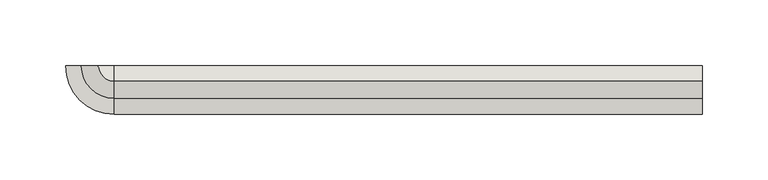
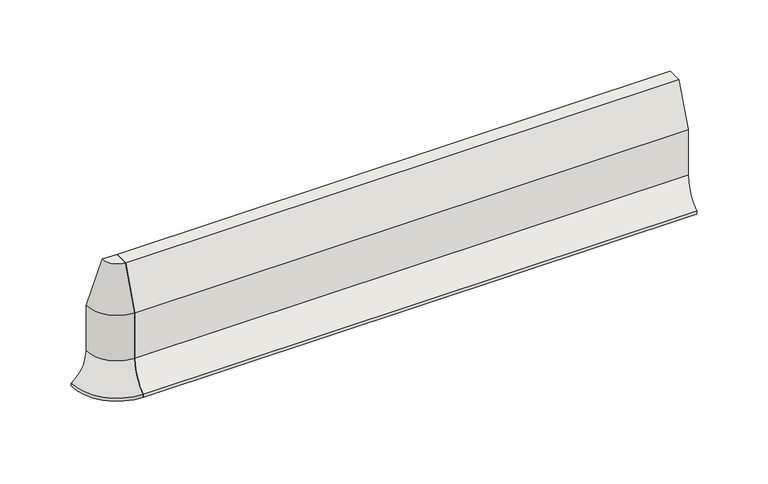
"""IFC4 building model written with IfcOpenShell, lengths in millimetres: wall geometry, GM_PC_UN_ACO kerb PB outside corner_ACO : PB H100 plain."""

import ifcopenshell
import ifcopenshell.guid

model = None  # the IFC model being written
_history = None  # IfcOwnerHistory: only IFC2X3 demands one
_inside = {}  # id of a spatial element -> (the spatial element, [elements in it])
_under = {}  # id of a project, library or spatial element -> (it, [spatial elements below it])
_declared = {}  # id of a project -> (the project, [libraries it declares])
_typed = {}  # id of a type object -> (the type object, [elements of that type])
_made_of = {}  # id of a material, layer set ... -> (it, [elements and type objects made of it])


def new_model(schema):
    """Start an empty IFC model of exactly this schema.

    Asked for "IFC4X3", IfcOpenShell would pick the latest addendum, in which some entities
    have other attributes; the version numbers below select the first issue.
    IFC2X3 requires an IfcOwnerHistory on every rooted entity: one is made here for all.
    """
    global model, _history
    if schema == "IFC4X3":
        model = ifcopenshell.file(schema_version=(4, 3, 0, 0))
    else:
        model = ifcopenshell.file(schema=schema)
    _inside.clear()
    _under.clear()
    _declared.clear()
    _typed.clear()
    _made_of.clear()
    _history = None
    if model.schema == "IFC2X3":
        org = make("IfcOrganization", Name="unknown")
        user = make(
            "IfcPersonAndOrganization",
            ThePerson=make("IfcPerson", FamilyName="unknown"),
            TheOrganization=org,
        )
        app = make(
            "IfcApplication",
            ApplicationDeveloper=org,
            Version="unknown",
            ApplicationFullName="unknown",
            ApplicationIdentifier="unknown",
        )
        _history = make(
            "IfcOwnerHistory",
            OwningUser=user,
            OwningApplication=app,
            ChangeAction="ADDED",
            CreationDate=0,
        )
    return model


def make(cls, **values):
    """One entity of the class cls with the attributes given. An attribute that is None is left unset."""
    return model.create_entity(
        cls, **{name: value for name, value in values.items() if value is not None}
    )


def rooted(cls, **values):
    """An entity with a GlobalId (a new one), such as an element, a storey or a relation."""
    return make(cls, GlobalId=ifcopenshell.guid.new(), OwnerHistory=_history, **values)


def si_unit(unit_type, name, prefix=None):
    """IfcSIUnit, for example si_unit("LENGTHUNIT", "METRE", prefix="MILLI")."""
    return make("IfcSIUnit", UnitType=unit_type, Prefix=prefix, Name=name)


def assignment(units):
    """IfcUnitAssignment: the units of a project."""
    return None if units is None else make("IfcUnitAssignment", Units=units)


def point(xyz):
    """IfcCartesianPoint."""
    return None if xyz is None else make("IfcCartesianPoint", Coordinates=xyz)


def direction(xyz):
    """IfcDirection."""
    return None if xyz is None else make("IfcDirection", DirectionRatios=xyz)


def frame(location, z_axis=None, x_axis=None):
    """IfcAxis2Placement3D, a coordinate frame: its origin and axes. An axis left out is left unset."""
    return make(
        "IfcAxis2Placement3D",
        Location=point(location),
        Axis=direction(z_axis),
        RefDirection=direction(x_axis),
    )


def frame_2d(location, x_axis=None):
    """IfcAxis2Placement2D, a coordinate frame in the plane: its origin and x axis."""
    return make(
        "IfcAxis2Placement2D", Location=point(location), RefDirection=direction(x_axis)
    )


def origin():
    """The frame at (0, 0, 0) with its axes left unset."""
    return frame((0.0, 0.0, 0.0))


def place(relative_to, where):
    """IfcLocalPlacement: puts the frame where relative to a parent placement (None: the world)."""
    return make(
        "IfcLocalPlacement", PlacementRelTo=relative_to, RelativePlacement=where
    )


def context(
    kind, dimensions, precision=None, world=None, true_north=None, identifier=None
):
    """IfcGeometricRepresentationContext, for example the 3D "Model" context."""
    return make(
        "IfcGeometricRepresentationContext",
        ContextIdentifier=identifier,
        ContextType=kind,
        CoordinateSpaceDimension=dimensions,
        Precision=precision,
        WorldCoordinateSystem=world,
        TrueNorth=true_north,
    )


def project(units=None, contexts=None):
    """IfcProject with its units and contexts."""
    return rooted(
        "IfcProject",
        Name="project",
        RepresentationContexts=contexts,
        UnitsInContext=assignment(units),
    )


def spatial(cls, under=None, at=None, **own):
    """A site, building, storey or space (cls), placed at a placement, below another one or the project."""
    s = rooted(cls, ObjectPlacement=at, **own)
    if under is not None:
        _under.setdefault(under.id(), (under, []))[1].append(s)
    return s


def polyline(points):
    """IfcPolyline through the points."""
    return make("IfcPolyline", Points=[point(p) for p in points])


def circle_curve(where, radius):
    """IfcCircle in the frame where."""
    return make("IfcCircle", Position=where, Radius=radius)


def ellipse_curve(where, semi_axis1, semi_axis2):
    """IfcEllipse in the frame where."""
    return make(
        "IfcEllipse", Position=where, SemiAxis1=semi_axis1, SemiAxis2=semi_axis2
    )


def trimmed(basis, trim1, trim2, sense, master):
    """IfcTrimmedCurve: the piece of a basis curve between two trims."""
    return make(
        "IfcTrimmedCurve",
        BasisCurve=basis,
        Trim1=trim1,
        Trim2=trim2,
        SenseAgreement=sense,
        MasterRepresentation=master,
    )


def segment(curve, same_sense, transition):
    """IfcCompositeCurveSegment."""
    return make(
        "IfcCompositeCurveSegment",
        Transition=transition,
        SameSense=same_sense,
        ParentCurve=curve,
    )


def composite_curve(segments, self_intersect=None):
    """IfcCompositeCurve: segments joined end to end."""
    return make("IfcCompositeCurve", Segments=segments, SelfIntersect=self_intersect)


def outline(outer, holes=None, kind="AREA"):
    """IfcArbitraryClosedProfileDef: a profile drawn as a closed curve; with holes, ...WithVoids."""
    if holes is None:
        return make("IfcArbitraryClosedProfileDef", ProfileType=kind, OuterCurve=outer)
    return make(
        "IfcArbitraryProfileDefWithVoids",
        ProfileType=kind,
        OuterCurve=outer,
        InnerCurves=holes,
    )


def extrude(swept, where, along, depth):
    """IfcExtrudedAreaSolid: the profile swept, set in the frame where, extruded along a direction by depth."""
    return make(
        "IfcExtrudedAreaSolid",
        SweptArea=swept,
        Position=where,
        ExtrudedDirection=direction(along),
        Depth=depth,
    )


def shape(context_of_items, identifier, shape_type, items):
    """IfcShapeRepresentation: the items that make up one representation, for example the "Body"."""
    return make(
        "IfcShapeRepresentation",
        ContextOfItems=context_of_items,
        RepresentationIdentifier=identifier,
        RepresentationType=shape_type,
        Items=items,
    )


def source(mapping_origin, context_of_items, identifier, shape_type, items):
    """IfcRepresentationMap: a shape defined once, which mapped items show again and again."""
    return make(
        "IfcRepresentationMap",
        MappingOrigin=mapping_origin,
        MappedRepresentation=shape(context_of_items, identifier, shape_type, items),
    )


def transform(
    local_origin,
    x_axis=None,
    y_axis=None,
    z_axis=None,
    scale=None,
    scale2=None,
    scale3=None,
    uniform=True,
):
    """IfcCartesianTransformationOperator3D, or its non-uniform kind. x_axis, y_axis, z_axis: its Axis1, 2, 3."""
    if uniform:
        return make(
            "IfcCartesianTransformationOperator3D",
            Axis1=direction(x_axis),
            Axis2=direction(y_axis),
            LocalOrigin=point(local_origin),
            Scale=scale,
            Axis3=direction(z_axis),
        )
    return make(
        "IfcCartesianTransformationOperator3DnonUniform",
        Axis1=direction(x_axis),
        Axis2=direction(y_axis),
        LocalOrigin=point(local_origin),
        Scale=scale,
        Axis3=direction(z_axis),
        Scale2=scale2,
        Scale3=scale3,
    )


def mapped(mapping_source, mapping_target):
    """IfcMappedItem: shows the shape of a source again, moved by a transform."""
    return make(
        "IfcMappedItem", MappingSource=mapping_source, MappingTarget=mapping_target
    )


def made_of(thing, what):
    """Note that an element or type object is made of a material, layer set ...; save() writes the relation."""
    if what is not None:
        _made_of.setdefault(what.id(), (what, []))[1].append(thing)
    return thing


def element(
    cls,
    number,
    at=None,
    inside=None,
    cuts=None,
    type_object=None,
    material=None,
    context=None,
    identifier="Body",
    shape_type=None,
    held_by="IfcProductDefinitionShape",
    body=None,
    shapes=None,
    **own,
):
    """One element of the class cls, such as IfcWall. Its Tag is "e" and its number.

    at: its placement. inside: the storey or other place that contains it. cuts: it is an
    opening in that element (IfcRelVoidsElement). A single representation is given by context,
    identifier, shape_type and body (its items); several are given by shapes. held_by: the class
    of the entity that holds the representations. save() writes the other relations.
    """
    e = rooted(cls, Tag="e%d" % number, ObjectPlacement=at, **own)
    if body is not None:
        shapes = [shape(context, identifier, shape_type, body)]
    if shapes is not None:
        e.Representation = make(held_by, Representations=shapes)
    if inside is not None:
        _inside.setdefault(inside.id(), (inside, []))[1].append(e)
    if cuts is not None:
        rooted(
            "IfcRelVoidsElement", RelatingBuildingElement=cuts, RelatedOpeningElement=e
        )
    if type_object is not None:
        _typed.setdefault(type_object.id(), (type_object, []))[1].append(e)
    return made_of(e, material)


def aggregate(whole, parts):
    """IfcRelAggregates: a whole, such as a stair, and the parts it consists of."""
    return rooted("IfcRelAggregates", RelatingObject=whole, RelatedObjects=parts)


def save(model, path):
    """Write the relations noted so far, then the file.

    IfcRelAggregates (storeys below a building ...), IfcRelContainedInSpatialStructure (elements
    in a storey), IfcRelDefinesByType, IfcRelAssociatesMaterial and IfcRelDeclares: one each for
    every whole, place, type object, material and project.
    """
    for whole, parts in _under.values():
        aggregate(whole, parts)
    for where, things in _inside.values():
        rooted(
            "IfcRelContainedInSpatialStructure",
            RelatedElements=things,
            RelatingStructure=where,
        )
    for kind, things in _typed.values():
        rooted("IfcRelDefinesByType", RelatedObjects=things, RelatingType=kind)
    for what, things in _made_of.values():
        rooted("IfcRelAssociatesMaterial", RelatedObjects=things, RelatingMaterial=what)
    for by, libraries in _declared.values():
        rooted("IfcRelDeclares", RelatingContext=by, RelatedDefinitions=libraries)
    model.write(path)


def plane_surface(at):
    """IfcPlane: the flat surface through the origin of the frame at, square to its z axis."""
    return make("IfcPlane", Position=at)


def cylinder_surface(at, radius):
    """IfcCylindricalSurface: all points at the distance radius from the z axis of the frame at."""
    return make("IfcCylindricalSurface", Position=at, Radius=radius)


def revolved_surface(curve, axis_point, axis_direction):
    """IfcSurfaceOfRevolution: the curve turned about the line through axis_point along axis_direction."""
    return make(
        "IfcSurfaceOfRevolution",
        SweptCurve=make("IfcArbitraryOpenProfileDef", ProfileType="CURVE", Curve=curve),
        AxisPosition=make("IfcAxis1Placement", Location=point(axis_point), Axis=direction(axis_direction)),
    )


def advanced_brep(points, edges, surfaces, faces):
    """IfcAdvancedBrep: a solid bounded by faces that lie on surfaces and meet in shared edges.

    An edge is (start, end): straight between two places in points (the first is 0);
    or (start, end, curve); or (start, end, curve, False) where it runs against its curve.
    A face is (place in surfaces, loops), or (place, loops, False) where it looks against
    its surface's normal. A loop lists edges by number (the first is 1), with a minus sign
    where the edge is run from its end to its start. The first loop is the outer one.
    """
    corners = [point(p) for p in points]
    vertices = [make("IfcVertexPoint", VertexGeometry=c) for c in corners]
    made = []
    for start, end, *more in edges:
        made.append(
            make(
                "IfcEdgeCurve",
                EdgeStart=vertices[start],
                EdgeEnd=vertices[end],
                EdgeGeometry=more[0] if more else make("IfcPolyline", Points=[corners[start], corners[end]]),
                SameSense=more[1] if len(more) > 1 else True,
            )
        )
    hull = []
    for where, loops, *sense in faces:
        bounds = []
        for j, loop in enumerate(loops):
            ring = [make("IfcOrientedEdge", EdgeElement=made[abs(k) - 1], Orientation=k > 0) for k in loop]
            bounds.append(
                make(
                    "IfcFaceOuterBound" if j == 0 else "IfcFaceBound",
                    Bound=make("IfcEdgeLoop", EdgeList=ring),
                    Orientation=True,
                )
            )
        hull.append(make("IfcAdvancedFace", Bounds=bounds, FaceSurface=surfaces[where], SameSense=sense[0] if sense else True))
    return make("IfcAdvancedBrep", Outer=make("IfcClosedShell", CfsFaces=hull))


def wall_ce8773a7(model_context):
    return source(origin(), model_context, "Body", "SolidModel", [
        extrude(outline(composite_curve([segment(polyline([(-25.0, 65.0), (-12.0, 100.0), (0.0, 100.0), (0.0, 0.0), (-37.0, 0.0), (-37.0, 2.5)]), True, "CONTINUOUS"), segment(trimmed(circle_curve(frame_2d((-54.0104167, 26.0)), 29.0104167), [point((-37.0, 2.5))], [point((-25.0, 26.0))], True, "CARTESIAN"), True, "CONTINUOUS"), segment(polyline([(-25.0, 26.0), (-25.0, 65.0)]), True, "CONTINUOUS")], self_intersect=False)), frame((0.0, 0.0, 0.0), z_axis=(1.0, 0.0, 0.0), x_axis=(0.0, 1.0, 0.0)), (0.0, 0.0, 1.0), 448.0),
        advanced_brep(
        [(-37.0, 0.0, 0.0), (-37.0, 0.0, 2.5), (-25.0, 0.0, 26.0), (-25.0, 0.0, 65.0), (-12.0, 0.0, 100.0), (0.0, 0.0, 100.0), (0.0, 0.0, 0.0), (0.0, -37.0, 0.0), (0.0, -12.0, 100.0), (0.0, -25.0, 65.0), (0.0, -25.0, 26.0), (0.0, -37.0, 2.5)],
        [
            (0, 1),
            (1, 2, circle_curve(frame((-54.0104167, 0.0, 26.0), z_axis=(0.0, -1.0000000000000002, 0.0), x_axis=(-1.0000000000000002, 0.0, 0.0)), 29.0104167)),
            (2, 3),
            (3, 4),
            (4, 5),
            (5, 6),
            (6, 0),
            (7, 6),
            (5, 8),
            (8, 9),
            (9, 10),
            (10, 11, circle_curve(frame((0.0, -54.0104167, 26.0), z_axis=(-1.0000000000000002, 0.0, 0.0), x_axis=(0.0, -1.0000000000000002, 0.0)), 29.0104167)),
            (11, 7),
            (11, 1, circle_curve(frame((0.0, 0.0, 2.5), z_axis=(0.0, 0.0, -1.0), x_axis=(-1.0000000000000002, 0.0, 0.0)), 37.0)),
            (0, 7, circle_curve(frame((0.0, 0.0, 0.0), z_axis=(0.0, 0.0, 1.0), x_axis=(-1.0000000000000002, 0.0, 0.0)), 37.0)),
            (10, 2, circle_curve(frame((0.0, 0.0, 26.0), z_axis=(0.0, 0.0, -1.0), x_axis=(-1.0000000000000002, 0.0, 0.0)), 25.0)),
            (9, 3, circle_curve(frame((0.0, 0.0, 65.0), z_axis=(0.0, 0.0, -1.0), x_axis=(-1.0000000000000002, 0.0, 0.0)), 25.0)),
            (8, 4, circle_curve(frame((0.0, 0.0, 100.0), z_axis=(0.0, 0.0, -1.0), x_axis=(-1.0000000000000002, 0.0, 0.0)), 12.0)),
        ],
        [
            plane_surface(frame((0.0, 0.0, 460.0), z_axis=(0.0, 1.0, 0.0), x_axis=(-1.0, 0.0, 0.0))),
            plane_surface(frame((0.0, 0.0, 460.0), z_axis=(1.0, 0.0, 0.0), x_axis=(0.0, -1.0, 0.0))),
            cylinder_surface(frame((0.0, 0.0, 460.0), z_axis=(0.0, 0.0, 1.0), x_axis=(-1.0000000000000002, 0.0, 0.0)), 37.0),
            revolved_surface(trimmed(ellipse_curve(frame((-54.0104167, 0.0, 26.0), z_axis=(0.0, -1.0000000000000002, 0.0), x_axis=(-1.0000000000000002, 0.0, 0.0)), 29.0104167, 29.0104167), [point((-37.0, 0.0, 2.5))], [point((-25.0, 0.0, 26.0))], True, "CARTESIAN"), (0.0, 0.0, 460.0), (0.0, 0.0, 1.0)),
            cylinder_surface(frame((0.0, 0.0, 460.0), z_axis=(0.0, 0.0, 1.0), x_axis=(-1.0000000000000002, 0.0, 0.0)), 25.0),
            revolved_surface(polyline([(-25.0, 0.0, 65.0), (-12.0, 0.0, 100.0)]), (0.0, 0.0, 460.0), (0.0, 0.0, 1.0)),
            plane_surface(frame((0.0, 0.0, 100.0), z_axis=(0.0, 0.0, 1.0), x_axis=(-1.0, 0.0, 0.0))),
            plane_surface(frame((0.0, 0.0, 0.0), z_axis=(0.0, 0.0, -1.0), x_axis=(-1.0, 0.0, 0.0))),
        ],
        [
            (0, [[1, 2, 3, 4, 5, 6, 7]]),
            (1, [[8, -6, 9, 10, 11, 12, 13]]),
            (2, [[14, -1, 15, -13]]),
            (3, [[16, -2, -14, -12]]),
            (4, [[17, -3, -16, -11]]),
            (5, [[18, -4, -17, -10]]),
            (6, [[-5, -18, -9]]),
            (7, [[-15, -7, -8]]),
        ],
    ),
    ])


if __name__ == "__main__":
    model = new_model("IFC4")
    model_context = context("Model", 3, world=origin())
    ifc_project = project(units=[si_unit("LENGTHUNIT", "METRE", prefix="MILLI")], contexts=[model_context])
    site = spatial("IfcSite", under=ifc_project)
    building = spatial("IfcBuilding", under=site)
    placement = place(None, origin())
    wall_shape = wall_ce8773a7(model_context)
    element("IfcWall", 1, ObjectType="GM_PC_UN_ACO kerb PB outside corner_ACO : PB H100 plain", at=placement, inside=building, context=model_context, shape_type="MappedRepresentation", body=[
        mapped(wall_shape, transform((0.0, 0.0, 0.0), x_axis=(1.0, 0.0, 0.0), y_axis=(0.0, 1.0, 0.0), z_axis=(0.0, 0.0, 1.0))),
    ])
    save(model, "model.ifc")
